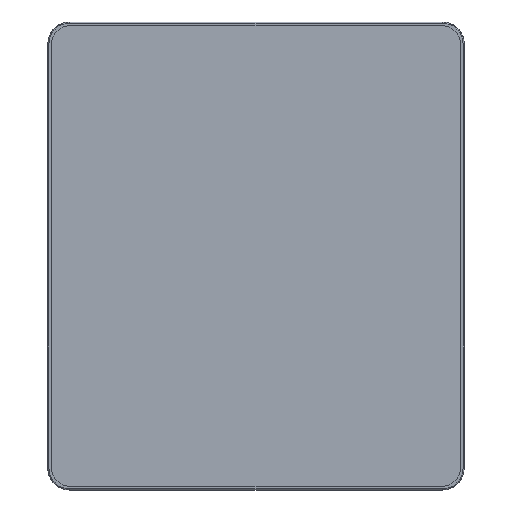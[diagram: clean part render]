
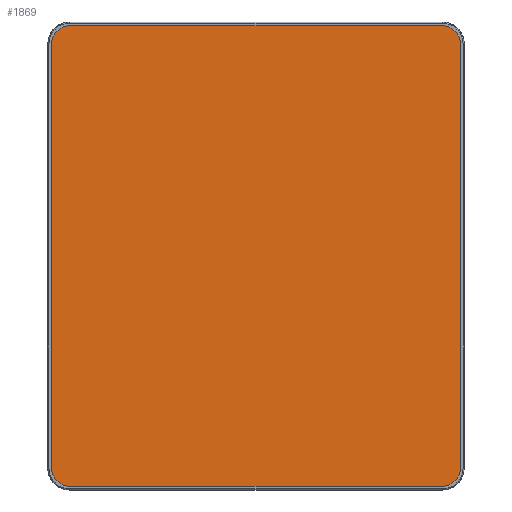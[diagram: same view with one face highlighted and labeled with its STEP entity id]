
A CAD part, top view. The second image highlights one B-rep face of the part: STEP entity #1869.
In plain terms, the highlighted planar face has unit normal (0, 0, 1).
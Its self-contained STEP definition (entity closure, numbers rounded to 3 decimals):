
#1869=ADVANCED_FACE('',(#3712),#3633,.T.);
#3633=PLANE('',#30795);
#3712=FACE_OUTER_BOUND('',#5442,.T.);
#5442=EDGE_LOOP('',(#8760,#8761,#8762,#8763,#8764,#8765,#8766,#8767));
#7246=CIRCLE('',#30791,22.4);
#7247=CIRCLE('',#30792,22.4);
#7248=CIRCLE('',#30793,22.4);
#7249=CIRCLE('',#30794,22.4);
#8760=ORIENTED_EDGE('',*,*,#22078,.T.);
#8761=ORIENTED_EDGE('',*,*,#22079,.T.);
#8762=ORIENTED_EDGE('',*,*,#22080,.T.);
#8763=ORIENTED_EDGE('',*,*,#22081,.T.);
#8764=ORIENTED_EDGE('',*,*,#22082,.T.);
#8765=ORIENTED_EDGE('',*,*,#22083,.T.);
#8766=ORIENTED_EDGE('',*,*,#22084,.T.);
#8767=ORIENTED_EDGE('',*,*,#22085,.T.);
#18784=VERTEX_POINT('',#38583);
#18785=VERTEX_POINT('',#38584);
#18786=VERTEX_POINT('',#38586);
#18787=VERTEX_POINT('',#38588);
#18788=VERTEX_POINT('',#38590);
#18789=VERTEX_POINT('',#38592);
#18790=VERTEX_POINT('',#38594);
#18791=VERTEX_POINT('',#38596);
#22078=EDGE_CURVE('',#18784,#18785,#27090,.T.);
#22079=EDGE_CURVE('',#18785,#18786,#7246,.T.);
#22080=EDGE_CURVE('',#18786,#18787,#27091,.T.);
#22081=EDGE_CURVE('',#18787,#18788,#7247,.T.);
#22082=EDGE_CURVE('',#18788,#18789,#27092,.T.);
#22083=EDGE_CURVE('',#18789,#18790,#7248,.T.);
#22084=EDGE_CURVE('',#18790,#18791,#27093,.T.);
#22085=EDGE_CURVE('',#18791,#18784,#7249,.T.);
#27090=LINE('',#38582,#27279);
#27091=LINE('',#38587,#27280);
#27092=LINE('',#38591,#27281);
#27093=LINE('',#38595,#27282);
#27279=VECTOR('',#33306,1.);
#27280=VECTOR('',#33309,1.);
#27281=VECTOR('',#33312,1.);
#27282=VECTOR('',#33315,1.);
#30791=AXIS2_PLACEMENT_3D('',#38585,#33307,#33308);
#30792=AXIS2_PLACEMENT_3D('',#38589,#33310,#33311);
#30793=AXIS2_PLACEMENT_3D('',#38593,#33313,#33314);
#30794=AXIS2_PLACEMENT_3D('',#38597,#33316,#33317);
#30795=AXIS2_PLACEMENT_3D('',#38598,#33318,#33319);
#33306=DIRECTION('',(0.,-1.,0.));
#33307=DIRECTION('',(0.,0.,1.));
#33308=DIRECTION('',(1.,0.,0.));
#33309=DIRECTION('',(1.,0.,0.));
#33310=DIRECTION('',(0.,0.,1.));
#33311=DIRECTION('',(1.,0.,0.));
#33312=DIRECTION('',(0.,1.,0.));
#33313=DIRECTION('',(0.,0.,1.));
#33314=DIRECTION('',(1.,0.,0.));
#33315=DIRECTION('',(-1.,0.,0.));
#33316=DIRECTION('',(0.,0.,1.));
#33317=DIRECTION('',(1.,0.,0.));
#33318=DIRECTION('',(0.,0.,1.));
#33319=DIRECTION('',(1.,0.,0.));
#38582=CARTESIAN_POINT('',(-251.05,260.4,6.601));
#38583=CARTESIAN_POINT('',(-251.05,260.4,6.601));
#38584=CARTESIAN_POINT('',(-251.05,-260.4,6.601));
#38585=CARTESIAN_POINT('',(-228.65,-260.4,6.601));
#38586=CARTESIAN_POINT('',(-228.65,-282.8,6.601));
#38587=CARTESIAN_POINT('',(-228.65,-282.8,6.601));
#38588=CARTESIAN_POINT('',(228.65,-282.8,6.601));
#38589=CARTESIAN_POINT('',(228.65,-260.4,6.601));
#38590=CARTESIAN_POINT('',(251.05,-260.4,6.601));
#38591=CARTESIAN_POINT('',(251.05,-260.4,6.601));
#38592=CARTESIAN_POINT('',(251.05,260.4,6.601));
#38593=CARTESIAN_POINT('',(228.65,260.4,6.601));
#38594=CARTESIAN_POINT('',(228.65,282.8,6.601));
#38595=CARTESIAN_POINT('',(228.65,282.8,6.601));
#38596=CARTESIAN_POINT('',(-228.65,282.8,6.601));
#38597=CARTESIAN_POINT('',(-228.65,260.4,6.601));
#38598=CARTESIAN_POINT('',(-228.65,-260.4,6.601));
